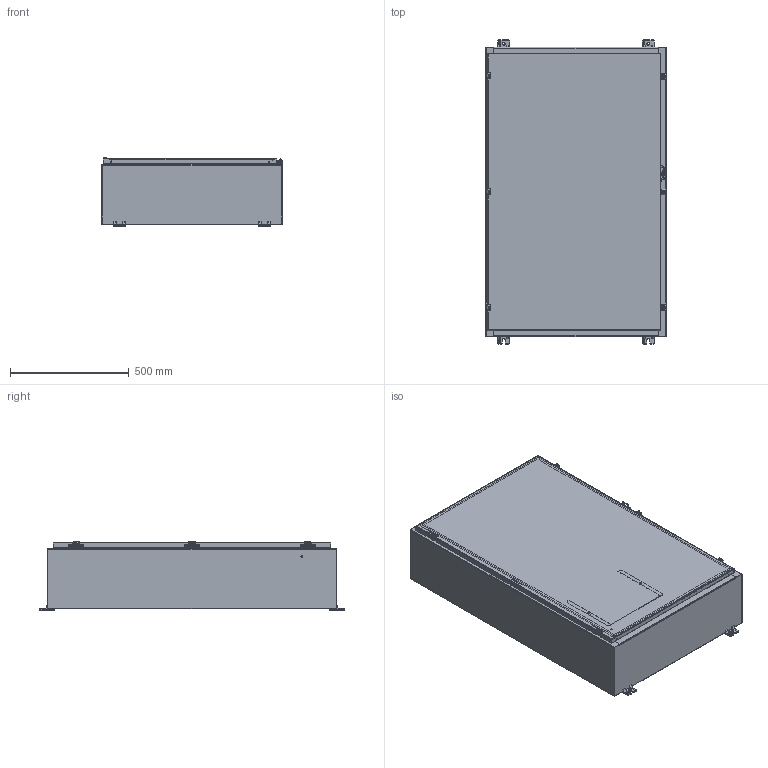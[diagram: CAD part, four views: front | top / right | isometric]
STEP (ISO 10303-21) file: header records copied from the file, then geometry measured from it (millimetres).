
FILE_DESCRIPTION((''),'2;1');
FILE_NAME('MODEL-309_ASM','2026-07-14T12:39:39',('joshi'),('SAGINAW CONTROL & ENGINEERING'),'CREO PARAMETRIC BY PTC INC, 2021284','CREO PARAMETRIC BY PTC INC, 2021284','');
FILE_SCHEMA(('AUTOMOTIVE_DESIGN { 1 0 10303 214 1 1 1 1 }'));
Length unit declared in the file: inch
Products named in the file (36): MODEL-309-BDY; MODEL-309-TP; MODEL-309-BTM; MODEL-309-DR; 100837; 100882; 111267; MODEL-309-DOOR-GASKET; 126391; 126391_ASM; 126393; 102483; 101226; 101376; 102140; 115117; MODEL-309-DOOR-ASSY_ASM; 101653; 121453; 120132_BASE; 120132_CLAMP; 120132_SCREW; 120132_SPRING; 120132_ASM; 120133; SUBPANEL; 100904; SUBPANEL-SUBASSEMBLY_ASM; 128630; 100059; 128630_ASM; 128631; 128631_ASM; 100921; 125493_ASM; MODEL-309_ASM
Assembly tree (80 placements, depth 4):
  MODEL-309_ASM
    MODEL-309-BDY
    MODEL-309-TP
    MODEL-309-BTM
    MODEL-309-DOOR-ASSY_ASM
      MODEL-309-DR
      100837  x3
      100882  x2
      111267
      MODEL-309-DOOR-GASKET
      126391_ASM  x3
        126391
      126393  x3
      102483  x10
      101226  x3
      101376  x3
      102140  x3
      115117
    100837
    101653  x6
    121453
    120132_ASM  x3
      120132_BASE
      120132_CLAMP
      120132_SCREW
      120132_SPRING
    100882  x4
    120133
    SUBPANEL-SUBASSEMBLY_ASM
      SUBPANEL
      100904  x6
    125493_ASM
      128630_ASM  x2
        128630
        100059
      128631_ASM  x2
        128631
        100059
      100921  x4
Bounding box: 762 x 1282.7 x 287.73 mm (x, y, z)
Volume: 9158826.2 mm3; surface area: 8253513.2 mm2
Topology: 83 solids, 83 shells, 5888 faces, 15150 edges, 9541 vertices
Faces by surface type: plane 2194, cylinder 1578, bspline 1161, torus 618, cone 206, sphere 131
Entity records: 118557 total; most frequent: CARTESIAN_POINT 36609, ORIENTED_EDGE 12138, DIRECTION 11799, PRESENTATION_STYLE_ASSIGNMENT 6202, STYLED_ITEM 6202, CURVE_STYLE 6069, EDGE_CURVE 6069, AXIS2_PLACEMENT_3D 4384
